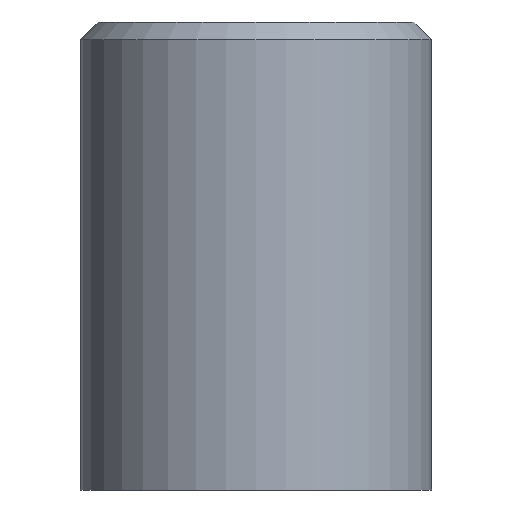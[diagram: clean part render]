
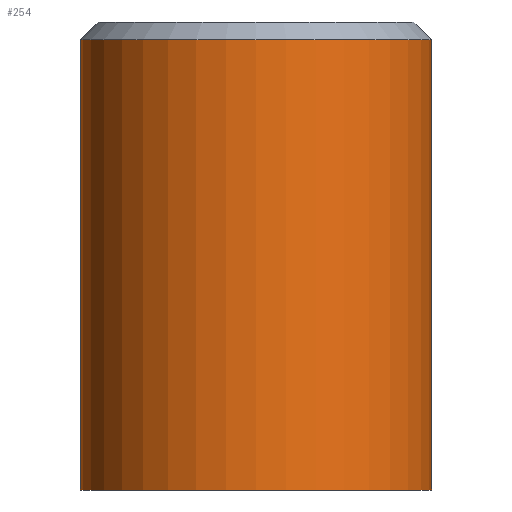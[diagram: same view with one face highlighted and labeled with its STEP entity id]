
A CAD part, front view. The second image highlights one B-rep face of the part: STEP entity #254.
In plain terms, the highlighted cylindrical face has radius 15 mm (diameter 30 mm), a full revolution.
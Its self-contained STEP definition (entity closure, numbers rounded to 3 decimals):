
#27=FACE_BOUND('',#81,.T.);
#35=B_SPLINE_CURVE_WITH_KNOTS('',3,(#429,#430,#431,#432,#433,#434,#435,
#436,#437,#438),.UNSPECIFIED.,.F.,.F.,(4,2,2,2,4),(0.798,0.998,
1.198,1.397,1.597),.UNSPECIFIED.);
#36=B_SPLINE_CURVE_WITH_KNOTS('',3,(#440,#441,#442,#443,#444,#445,#446,
#447,#448,#449,#450,#451,#452,#453,#454,#455,#456,#457,#458),
 .UNSPECIFIED.,.F.,.F.,(4,2,2,2,3,2,2,2,4),(2.395,2.595,
2.794,2.994,3.194,3.393,3.593,
3.793,3.992),.UNSPECIFIED.);
#37=B_SPLINE_CURVE_WITH_KNOTS('',3,(#459,#460,#461,#462,#463,#464,#465,
#466,#467,#468),.UNSPECIFIED.,.F.,.F.,(4,2,2,2,4),(1.597,1.796,
1.996,2.196,2.395),.UNSPECIFIED.);
#41=CYLINDRICAL_SURFACE('',#309,15.);
#60=FACE_OUTER_BOUND('',#80,.T.);
#80=EDGE_LOOP('',(#210,#211,#212,#213,#214));
#81=EDGE_LOOP('',(#215,#216,#217));
#98=LINE('',#495,#109);
#109=VECTOR('',#375,15.);
#121=CIRCLE('',#304,15.);
#123=CIRCLE('',#307,15.);
#124=CIRCLE('',#308,15.);
#133=VERTEX_POINT('',#427);
#134=VERTEX_POINT('',#428);
#135=VERTEX_POINT('',#439);
#140=VERTEX_POINT('',#484);
#142=VERTEX_POINT('',#489);
#143=VERTEX_POINT('',#491);
#155=EDGE_CURVE('',#133,#134,#35,.T.);
#156=EDGE_CURVE('',#135,#133,#36,.T.);
#157=EDGE_CURVE('',#134,#135,#37,.T.);
#165=EDGE_CURVE('',#140,#140,#121,.T.);
#168=EDGE_CURVE('',#142,#143,#123,.T.);
#169=EDGE_CURVE('',#143,#142,#124,.T.);
#170=EDGE_CURVE('',#143,#140,#98,.T.);
#210=ORIENTED_EDGE('',*,*,#168,.F.);
#211=ORIENTED_EDGE('',*,*,#169,.F.);
#212=ORIENTED_EDGE('',*,*,#170,.T.);
#213=ORIENTED_EDGE('',*,*,#165,.F.);
#214=ORIENTED_EDGE('',*,*,#170,.F.);
#215=ORIENTED_EDGE('',*,*,#155,.T.);
#216=ORIENTED_EDGE('',*,*,#157,.T.);
#217=ORIENTED_EDGE('',*,*,#156,.T.);
#254=ADVANCED_FACE('',(#60,#27),#41,.T.);
#304=AXIS2_PLACEMENT_3D('',#485,#362,#363);
#307=AXIS2_PLACEMENT_3D('',#492,#369,#370);
#308=AXIS2_PLACEMENT_3D('',#493,#371,#372);
#309=AXIS2_PLACEMENT_3D('',#494,#373,#374);
#362=DIRECTION('center_axis',(0.,0.,-1.));
#363=DIRECTION('ref_axis',(1.,0.,0.));
#369=DIRECTION('center_axis',(0.,0.,1.));
#370=DIRECTION('ref_axis',(-1.,0.,0.));
#371=DIRECTION('center_axis',(0.,0.,1.));
#372=DIRECTION('ref_axis',(-1.,0.,0.));
#373=DIRECTION('center_axis',(0.,0.,1.));
#374=DIRECTION('ref_axis',(1.,0.,0.));
#375=DIRECTION('',(0.,0.,-1.));
#427=CARTESIAN_POINT('',(0.,15.,35.25));
#428=CARTESIAN_POINT('',(-5.25,14.051,30.));
#429=CARTESIAN_POINT('Ctrl Pts',(0.,15.,35.25));
#430=CARTESIAN_POINT('Ctrl Pts',(-0.665,15.,35.25));
#431=CARTESIAN_POINT('Ctrl Pts',(-1.371,14.951,35.116));
#432=CARTESIAN_POINT('Ctrl Pts',(-2.663,14.776,34.578));
#433=CARTESIAN_POINT('Ctrl Pts',(-3.249,14.652,34.175));
#434=CARTESIAN_POINT('Ctrl Pts',(-4.175,14.415,33.249));
#435=CARTESIAN_POINT('Ctrl Pts',(-4.578,14.287,32.663));
#436=CARTESIAN_POINT('Ctrl Pts',(-5.116,14.104,31.371));
#437=CARTESIAN_POINT('Ctrl Pts',(-5.25,14.051,30.666));
#438=CARTESIAN_POINT('Ctrl Pts',(-5.25,14.051,30.));
#439=CARTESIAN_POINT('',(0.,15.,24.75));
#440=CARTESIAN_POINT('Ctrl Pts',(0.,15.,24.75));
#441=CARTESIAN_POINT('Ctrl Pts',(0.665,15.,24.75));
#442=CARTESIAN_POINT('Ctrl Pts',(1.371,14.951,24.884));
#443=CARTESIAN_POINT('Ctrl Pts',(2.663,14.776,25.422));
#444=CARTESIAN_POINT('Ctrl Pts',(3.249,14.652,25.825));
#445=CARTESIAN_POINT('Ctrl Pts',(4.175,14.415,26.751));
#446=CARTESIAN_POINT('Ctrl Pts',(4.578,14.287,27.337));
#447=CARTESIAN_POINT('Ctrl Pts',(5.116,14.104,28.629));
#448=CARTESIAN_POINT('Ctrl Pts',(5.25,14.051,29.334));
#449=CARTESIAN_POINT('Ctrl Pts',(5.25,14.051,30.));
#450=CARTESIAN_POINT('Ctrl Pts',(5.25,14.051,30.666));
#451=CARTESIAN_POINT('Ctrl Pts',(5.116,14.104,31.371));
#452=CARTESIAN_POINT('Ctrl Pts',(4.578,14.287,32.663));
#453=CARTESIAN_POINT('Ctrl Pts',(4.175,14.415,33.249));
#454=CARTESIAN_POINT('Ctrl Pts',(3.249,14.652,34.175));
#455=CARTESIAN_POINT('Ctrl Pts',(2.663,14.776,34.578));
#456=CARTESIAN_POINT('Ctrl Pts',(1.371,14.951,35.116));
#457=CARTESIAN_POINT('Ctrl Pts',(0.665,15.,35.25));
#458=CARTESIAN_POINT('Ctrl Pts',(0.,15.,35.25));
#459=CARTESIAN_POINT('Ctrl Pts',(-5.25,14.051,30.));
#460=CARTESIAN_POINT('Ctrl Pts',(-5.25,14.051,29.334));
#461=CARTESIAN_POINT('Ctrl Pts',(-5.116,14.104,28.629));
#462=CARTESIAN_POINT('Ctrl Pts',(-4.578,14.287,27.337));
#463=CARTESIAN_POINT('Ctrl Pts',(-4.175,14.415,26.751));
#464=CARTESIAN_POINT('Ctrl Pts',(-3.249,14.652,25.825));
#465=CARTESIAN_POINT('Ctrl Pts',(-2.663,14.776,25.422));
#466=CARTESIAN_POINT('Ctrl Pts',(-1.371,14.951,24.884));
#467=CARTESIAN_POINT('Ctrl Pts',(-0.665,15.,24.75));
#468=CARTESIAN_POINT('Ctrl Pts',(0.,15.,24.75));
#484=CARTESIAN_POINT('',(-15.,0.,0.));
#485=CARTESIAN_POINT('Origin',(0.,0.,0.));
#489=CARTESIAN_POINT('',(15.,0.,38.5));
#491=CARTESIAN_POINT('',(-15.,0.,38.5));
#492=CARTESIAN_POINT('Origin',(0.,0.,38.5));
#493=CARTESIAN_POINT('Origin',(0.,0.,38.5));
#494=CARTESIAN_POINT('Origin',(0.,0.,20.));
#495=CARTESIAN_POINT('',(-15.,0.,20.));
